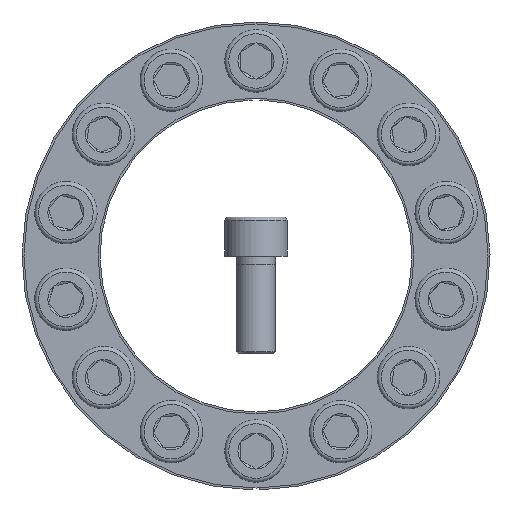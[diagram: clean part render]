
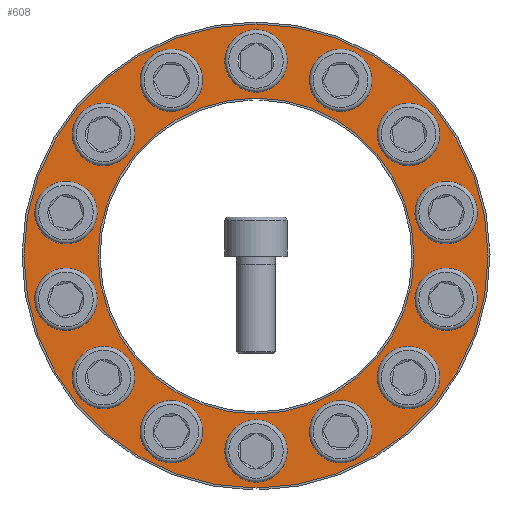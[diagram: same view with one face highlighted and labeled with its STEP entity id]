
A CAD part, front view. The second image highlights one B-rep face of the part: STEP entity #608.
In plain terms, the highlighted planar face has unit normal (0, -1, 0).
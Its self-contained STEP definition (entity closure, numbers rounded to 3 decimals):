
#608 = ADVANCED_FACE( '', ( #1164, #1165, #1166, #1167, #1168, #1169, #1170, #1171, #1172, #1173, #1174, #1175, #1176, #1177, #1178, #1179 ), #1180, .T. );
#1164 = FACE_BOUND( '', #2157, .T. );
#1165 = FACE_BOUND( '', #2158, .T. );
#1166 = FACE_BOUND( '', #2159, .T. );
#1167 = FACE_BOUND( '', #2160, .T. );
#1168 = FACE_BOUND( '', #2161, .T. );
#1169 = FACE_BOUND( '', #2162, .T. );
#1170 = FACE_BOUND( '', #2163, .T. );
#1171 = FACE_BOUND( '', #2164, .T. );
#1172 = FACE_BOUND( '', #2165, .T. );
#1173 = FACE_BOUND( '', #2166, .T. );
#1174 = FACE_BOUND( '', #2167, .T. );
#1175 = FACE_BOUND( '', #2168, .T. );
#1176 = FACE_BOUND( '', #2169, .T. );
#1177 = FACE_BOUND( '', #2170, .T. );
#1178 = FACE_BOUND( '', #2171, .T. );
#1179 = FACE_OUTER_BOUND( '', #2172, .T. );
#1180 = PLANE( '', #2173 );
#2157 = EDGE_LOOP( '', ( #3175 ) );
#2158 = EDGE_LOOP( '', ( #3176 ) );
#2159 = EDGE_LOOP( '', ( #3177 ) );
#2160 = EDGE_LOOP( '', ( #3178 ) );
#2161 = EDGE_LOOP( '', ( #3179 ) );
#2162 = EDGE_LOOP( '', ( #3180 ) );
#2163 = EDGE_LOOP( '', ( #3181 ) );
#2164 = EDGE_LOOP( '', ( #3182 ) );
#2165 = EDGE_LOOP( '', ( #3183 ) );
#2166 = EDGE_LOOP( '', ( #3184 ) );
#2167 = EDGE_LOOP( '', ( #3185 ) );
#2168 = EDGE_LOOP( '', ( #3186 ) );
#2169 = EDGE_LOOP( '', ( #3187 ) );
#2170 = EDGE_LOOP( '', ( #3188 ) );
#2171 = EDGE_LOOP( '', ( #3189 ) );
#2172 = EDGE_LOOP( '', ( #3190 ) );
#2173 = AXIS2_PLACEMENT_3D( '', #3191, #3192, #3193 );
#3175 = ORIENTED_EDGE( '', *, *, #5506, .T. );
#3176 = ORIENTED_EDGE( '', *, *, #5507, .T. );
#3177 = ORIENTED_EDGE( '', *, *, #5508, .T. );
#3178 = ORIENTED_EDGE( '', *, *, #5509, .T. );
#3179 = ORIENTED_EDGE( '', *, *, #5510, .T. );
#3180 = ORIENTED_EDGE( '', *, *, #5511, .T. );
#3181 = ORIENTED_EDGE( '', *, *, #5512, .T. );
#3182 = ORIENTED_EDGE( '', *, *, #5513, .T. );
#3183 = ORIENTED_EDGE( '', *, *, #5514, .T. );
#3184 = ORIENTED_EDGE( '', *, *, #5515, .T. );
#3185 = ORIENTED_EDGE( '', *, *, #5516, .T. );
#3186 = ORIENTED_EDGE( '', *, *, #5517, .T. );
#3187 = ORIENTED_EDGE( '', *, *, #5518, .T. );
#3188 = ORIENTED_EDGE( '', *, *, #5519, .T. );
#3189 = ORIENTED_EDGE( '', *, *, #5520, .F. );
#3190 = ORIENTED_EDGE( '', *, *, #5521, .T. );
#3191 = CARTESIAN_POINT( '', ( 0., -14., -60. ) );
#3192 = DIRECTION( '', ( 0., -1., 0. ) );
#3193 = DIRECTION( '', ( 0., 0., -1. ) );
#5506 = EDGE_CURVE( '', #6128, #6128, #6129, .T. );
#5507 = EDGE_CURVE( '', #6130, #6130, #6131, .T. );
#5508 = EDGE_CURVE( '', #6132, #6132, #6133, .T. );
#5509 = EDGE_CURVE( '', #6134, #6134, #6135, .T. );
#5510 = EDGE_CURVE( '', #6136, #6136, #6137, .T. );
#5511 = EDGE_CURVE( '', #6138, #6138, #6139, .T. );
#5512 = EDGE_CURVE( '', #6140, #6140, #6141, .T. );
#5513 = EDGE_CURVE( '', #6142, #6142, #6143, .T. );
#5514 = EDGE_CURVE( '', #6144, #6144, #6145, .T. );
#5515 = EDGE_CURVE( '', #6146, #6146, #6147, .T. );
#5516 = EDGE_CURVE( '', #6148, #6148, #6149, .T. );
#5517 = EDGE_CURVE( '', #6150, #6150, #6151, .T. );
#5518 = EDGE_CURVE( '', #6152, #6152, #6153, .T. );
#5519 = EDGE_CURVE( '', #6154, #6154, #6155, .T. );
#5520 = EDGE_CURVE( '', #6156, #6156, #6157, .T. );
#5521 = EDGE_CURVE( '', #6158, #6158, #6159, .T. );
#6128 = VERTEX_POINT( '', #7038 );
#6129 = CIRCLE( '', #7039, 5. );
#6130 = VERTEX_POINT( '', #7040 );
#6131 = CIRCLE( '', #7041, 5. );
#6132 = VERTEX_POINT( '', #7042 );
#6133 = CIRCLE( '', #7043, 5. );
#6134 = VERTEX_POINT( '', #7044 );
#6135 = CIRCLE( '', #7045, 5. );
#6136 = VERTEX_POINT( '', #7046 );
#6137 = CIRCLE( '', #7047, 5. );
#6138 = VERTEX_POINT( '', #7048 );
#6139 = CIRCLE( '', #7049, 5. );
#6140 = VERTEX_POINT( '', #7050 );
#6141 = CIRCLE( '', #7051, 5. );
#6142 = VERTEX_POINT( '', #7052 );
#6143 = CIRCLE( '', #7053, 5. );
#6144 = VERTEX_POINT( '', #7054 );
#6145 = CIRCLE( '', #7055, 5. );
#6146 = VERTEX_POINT( '', #7056 );
#6147 = CIRCLE( '', #7057, 5. );
#6148 = VERTEX_POINT( '', #7058 );
#6149 = CIRCLE( '', #7059, 5. );
#6150 = VERTEX_POINT( '', #7060 );
#6151 = CIRCLE( '', #7061, 5. );
#6152 = VERTEX_POINT( '', #7062 );
#6153 = CIRCLE( '', #7063, 5. );
#6154 = VERTEX_POINT( '', #7064 );
#6155 = CIRCLE( '', #7065, 5. );
#6156 = VERTEX_POINT( '', #7066 );
#6157 = CIRCLE( '', #7067, 40.5 );
#6158 = VERTEX_POINT( '', #7068 );
#6159 = CIRCLE( '', #7069, 59.5 );
#7038 = CARTESIAN_POINT( '', ( -21.694, -14., 40.048 ) );
#7039 = AXIS2_PLACEMENT_3D( '', #8758, #8759, #8760 );
#7040 = CARTESIAN_POINT( '', ( -39.092, -14., 26.174 ) );
#7041 = AXIS2_PLACEMENT_3D( '', #8761, #8762, #8763 );
#7042 = CARTESIAN_POINT( '', ( -48.746, -14., 6.126 ) );
#7043 = AXIS2_PLACEMENT_3D( '', #8764, #8765, #8766 );
#7044 = CARTESIAN_POINT( '', ( -48.746, -14., -16.126 ) );
#7045 = AXIS2_PLACEMENT_3D( '', #8767, #8768, #8769 );
#7046 = CARTESIAN_POINT( '', ( -39.092, -14., -36.174 ) );
#7047 = AXIS2_PLACEMENT_3D( '', #8770, #8771, #8772 );
#7048 = CARTESIAN_POINT( '', ( -21.694, -14., -50.048 ) );
#7049 = AXIS2_PLACEMENT_3D( '', #8773, #8774, #8775 );
#7050 = CARTESIAN_POINT( '', ( 0., -14., -55. ) );
#7051 = AXIS2_PLACEMENT_3D( '', #8776, #8777, #8778 );
#7052 = CARTESIAN_POINT( '', ( 21.694, -14., -50.048 ) );
#7053 = AXIS2_PLACEMENT_3D( '', #8779, #8780, #8781 );
#7054 = CARTESIAN_POINT( '', ( 39.092, -14., -36.174 ) );
#7055 = AXIS2_PLACEMENT_3D( '', #8782, #8783, #8784 );
#7056 = CARTESIAN_POINT( '', ( 53.746, -14., -11.126 ) );
#7057 = AXIS2_PLACEMENT_3D( '', #8785, #8786, #8787 );
#7058 = CARTESIAN_POINT( '', ( 53.746, -14., 11.126 ) );
#7059 = AXIS2_PLACEMENT_3D( '', #8788, #8789, #8790 );
#7060 = CARTESIAN_POINT( '', ( 39.092, -14., 26.174 ) );
#7061 = AXIS2_PLACEMENT_3D( '', #8791, #8792, #8793 );
#7062 = CARTESIAN_POINT( '', ( 21.694, -14., 40.048 ) );
#7063 = AXIS2_PLACEMENT_3D( '', #8794, #8795, #8796 );
#7064 = CARTESIAN_POINT( '', ( 0., -14., 45. ) );
#7065 = AXIS2_PLACEMENT_3D( '', #8797, #8798, #8799 );
#7066 = CARTESIAN_POINT( '', ( 0., -14., -40.5 ) );
#7067 = AXIS2_PLACEMENT_3D( '', #8800, #8801, #8802 );
#7068 = CARTESIAN_POINT( '', ( 0., -14., -59.5 ) );
#7069 = AXIS2_PLACEMENT_3D( '', #8803, #8804, #8805 );
#8758 = CARTESIAN_POINT( '', ( -21.694, -14., 45.048 ) );
#8759 = DIRECTION( '', ( 0., 1., 0. ) );
#8760 = DIRECTION( '', ( 0., 0., -1. ) );
#8761 = CARTESIAN_POINT( '', ( -39.092, -14., 31.174 ) );
#8762 = DIRECTION( '', ( 0., 1., 0. ) );
#8763 = DIRECTION( '', ( 0., 0., -1. ) );
#8764 = CARTESIAN_POINT( '', ( -48.746, -14., 11.126 ) );
#8765 = DIRECTION( '', ( 0., 1., 0. ) );
#8766 = DIRECTION( '', ( 0., 0., -1. ) );
#8767 = CARTESIAN_POINT( '', ( -48.746, -14., -11.126 ) );
#8768 = DIRECTION( '', ( 0., 1., 0. ) );
#8769 = DIRECTION( '', ( 0., 0., -1. ) );
#8770 = CARTESIAN_POINT( '', ( -39.092, -14., -31.174 ) );
#8771 = DIRECTION( '', ( 0., 1., 0. ) );
#8772 = DIRECTION( '', ( 0., 0., -1. ) );
#8773 = CARTESIAN_POINT( '', ( -21.694, -14., -45.048 ) );
#8774 = DIRECTION( '', ( 0., 1., 0. ) );
#8775 = DIRECTION( '', ( 0., 0., -1. ) );
#8776 = CARTESIAN_POINT( '', ( 0., -14., -50. ) );
#8777 = DIRECTION( '', ( 0., 1., 0. ) );
#8778 = DIRECTION( '', ( 0., 0., -1. ) );
#8779 = CARTESIAN_POINT( '', ( 21.694, -14., -45.048 ) );
#8780 = DIRECTION( '', ( 0., 1., 0. ) );
#8781 = DIRECTION( '', ( 0., 0., -1. ) );
#8782 = CARTESIAN_POINT( '', ( 39.092, -14., -31.174 ) );
#8783 = DIRECTION( '', ( 0., 1., 0. ) );
#8784 = DIRECTION( '', ( 0., 0., -1. ) );
#8785 = CARTESIAN_POINT( '', ( 48.746, -14., -11.126 ) );
#8786 = DIRECTION( '', ( 0., 1., 0. ) );
#8787 = DIRECTION( '', ( 1., 0., 0. ) );
#8788 = CARTESIAN_POINT( '', ( 48.746, -14., 11.126 ) );
#8789 = DIRECTION( '', ( 0., 1., 0. ) );
#8790 = DIRECTION( '', ( 1., 0., 0. ) );
#8791 = CARTESIAN_POINT( '', ( 39.092, -14., 31.174 ) );
#8792 = DIRECTION( '', ( 0., 1., 0. ) );
#8793 = DIRECTION( '', ( 0., 0., -1. ) );
#8794 = CARTESIAN_POINT( '', ( 21.694, -14., 45.048 ) );
#8795 = DIRECTION( '', ( 0., 1., 0. ) );
#8796 = DIRECTION( '', ( 0., 0., -1. ) );
#8797 = CARTESIAN_POINT( '', ( 0., -14., 50. ) );
#8798 = DIRECTION( '', ( 0., 1., 0. ) );
#8799 = DIRECTION( '', ( 0., 0., -1. ) );
#8800 = CARTESIAN_POINT( '', ( 0., -14., 0. ) );
#8801 = DIRECTION( '', ( 0., -1., 0. ) );
#8802 = DIRECTION( '', ( 0., 0., -1. ) );
#8803 = CARTESIAN_POINT( '', ( 0., -14., 0. ) );
#8804 = DIRECTION( '', ( 0., -1., 0. ) );
#8805 = DIRECTION( '', ( 0., 0., -1. ) );
